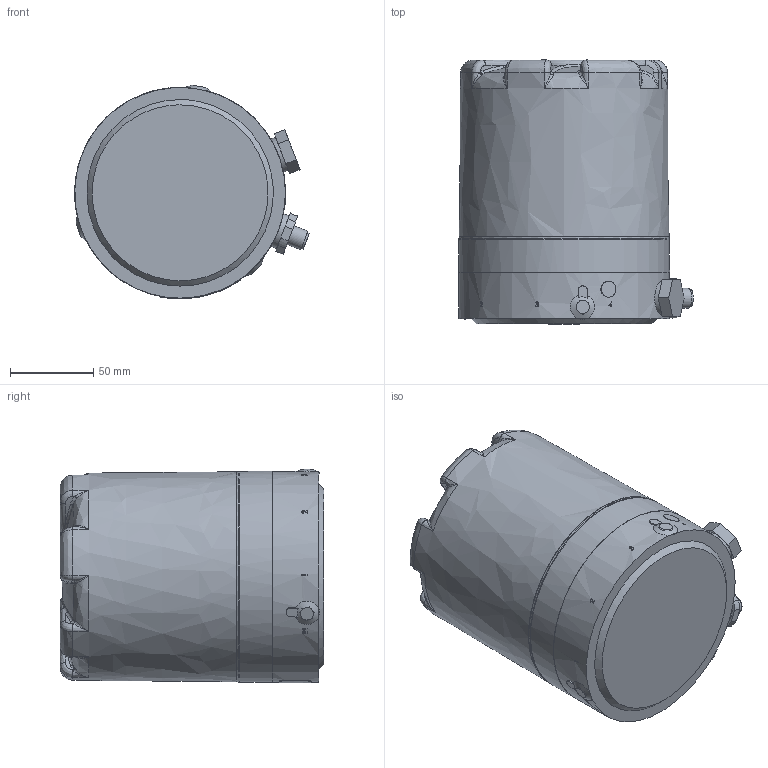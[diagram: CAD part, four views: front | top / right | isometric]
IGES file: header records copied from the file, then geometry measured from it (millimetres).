
Global section: file name: WCB - maintainable; native system: Autodesk Inventor 2020; preprocessor: unknown; author: FA67NH; date: 20210423.134126; units: inch
Bounding box: 141.23 x 158.62 x 128.62 mm (x, y, z)
Volume: 1937452.9 mm3; surface area: 89934.7 mm2
Topology: 1 solids, 1 shells, 344 faces, 864 edges, 528 vertices
Faces by surface type: bspline 344
